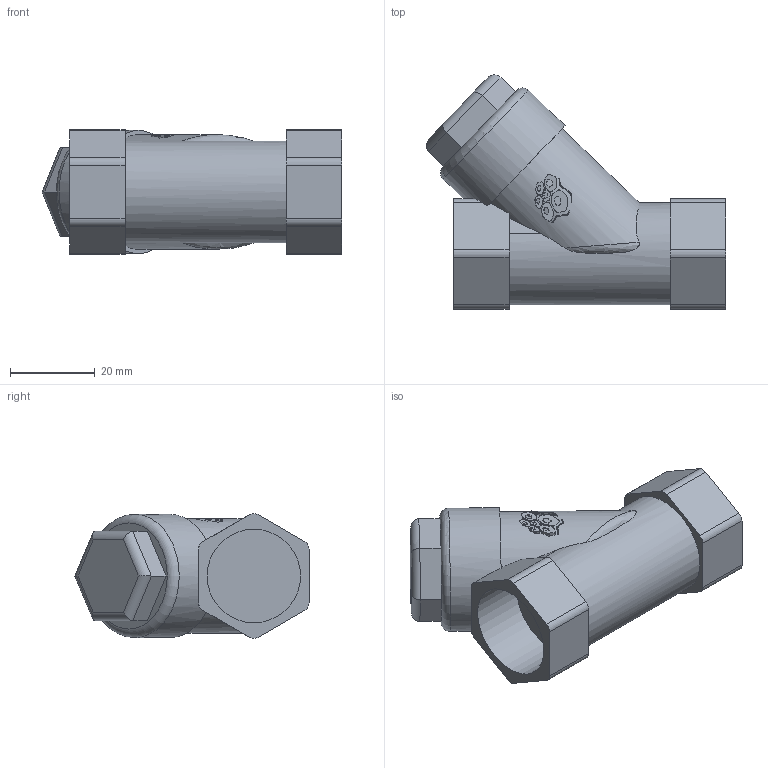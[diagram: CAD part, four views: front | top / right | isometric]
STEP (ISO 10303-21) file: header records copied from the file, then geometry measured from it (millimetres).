
FILE_DESCRIPTION(('STEP AP203'), '1');
FILE_NAME('3D_6460-015-40', '', ('UNSPECIFIED'), ('UNSPECIFIED'), 'C3D Converter', 'C3D Toolkit', '');
FILE_SCHEMA(('CONFIG_CONTROL_DESIGN'));
Length unit declared in the file: millimetre
Bounding box: 70.47 x 55.12 x 29.4 mm (x, y, z)
Volume: 42461.1 mm3; surface area: 11177.9 mm2
Topology: 1 solids, 1 shells, 881 faces, 2580 edges, 1719 vertices
Faces by surface type: plane 848, cylinder 30, bspline 2, torus 1
Full cylindrical faces by diameter (mm): 22 x2, 24 x1, 29 x1
Entity records: 37314 total; most frequent: CARTESIAN_POINT 9167, ORIENTED_EDGE 5150, DIRECTION 3555, EDGE_CURVE 2575, VERTEX_POINT 1719, LINE 1717, VECTOR 1717, AXIS2_PLACEMENT_3D 919
